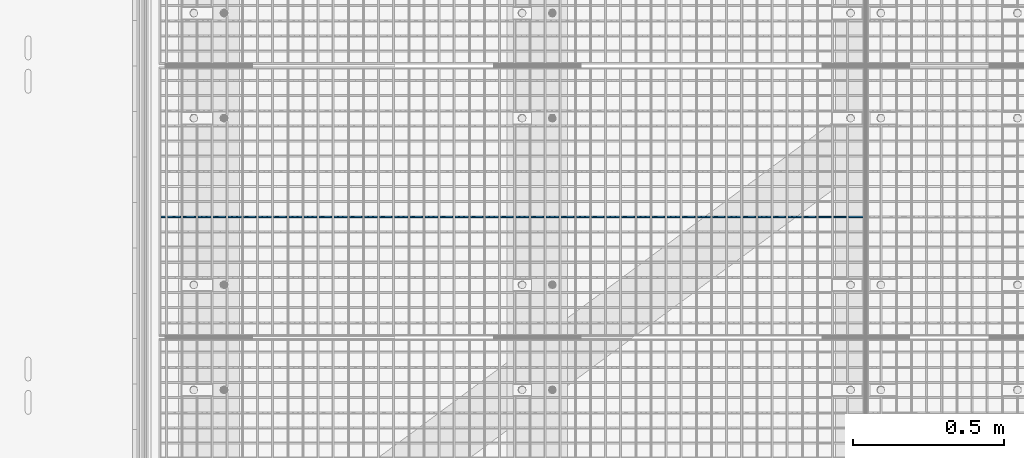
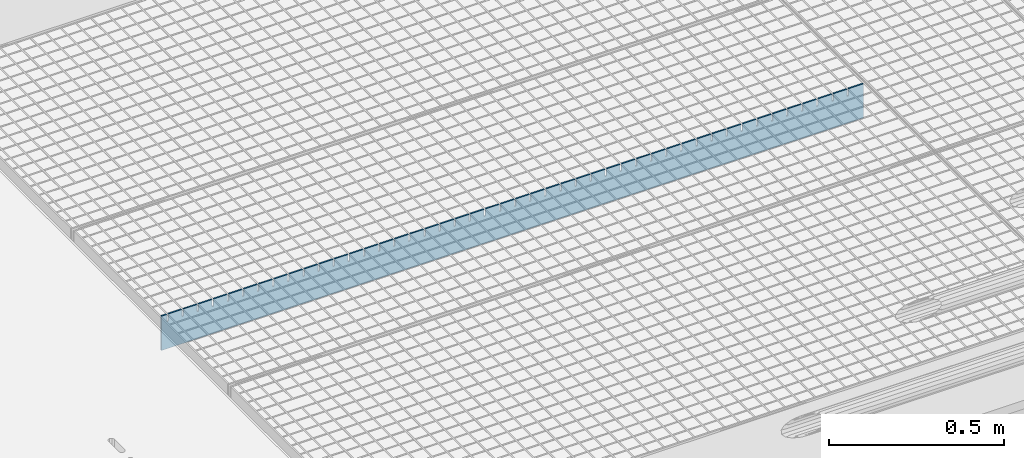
# One storey, part 126 of 1530: 1 beam.
"""IFC2X3 building model written with IfcOpenShell, lengths in millimetres."""

from ifc_helpers import new_model, si_unit, frame, origin_with_axes, place, context, subcontext, project, spatial, faceted_brep, material, type_object, element, save


model = new_model("IFC2X3")

# Units and contexts
model_context = context("Model", 3, precision=1e-05, world=origin_with_axes())
body_context = subcontext(model_context, "Body", "Model", "MODEL_VIEW")
ifc_project = project(units=[si_unit("LENGTHUNIT", "METRE", prefix="MILLI"), si_unit("AREAUNIT", "SQUARE_METRE"), si_unit("VOLUMEUNIT", "CUBIC_METRE"), si_unit("MASSUNIT", "GRAM", prefix="KILO"), si_unit("TIMEUNIT", "SECOND"), si_unit("PLANEANGLEUNIT", "RADIAN"), si_unit("SOLIDANGLEUNIT", "STERADIAN"), si_unit("THERMODYNAMICTEMPERATUREUNIT", "DEGREE_CELSIUS"), si_unit("LUMINOUSINTENSITYUNIT", "LUMEN")], contexts=[model_context])

# Site, building, storey
site_placement = place(None, origin_with_axes())
site = spatial("IfcSite", under=ifc_project, at=site_placement, Name="Brattvåg", CompositionType="ELEMENT")
building_placement = place(site_placement, origin_with_axes())
building = spatial("IfcBuilding", under=site, at=building_placement, Name="Undefined", CompositionType="ELEMENT")
storey_placement = place(building_placement, origin_with_axes())
storey = spatial("IfcBuildingStorey", under=building, at=storey_placement, Name="Undefined", CompositionType="ELEMENT", Elevation=0.0)

# Beam
ifc_material = material(Name="STEEL/S355J2")
beam_type = type_object("IfcBeamType", Name="120*5", PredefinedType="NOTDEFINED")
beam_placement = place(storey_placement, frame((2347.01317977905, 1449.9952545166, -59.9998626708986), z_axis=(0.0, 0.0, 1.0), x_axis=(-1.0, 1.99999855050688e-09, 0.0)))
element("IfcBeam", 1, at=beam_placement, inside=storey, type_object=beam_type, material=ifc_material, Name="GRATING", context=body_context, shape_type="Brep", body=[
    faceted_brep([(99.4490367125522, -2.50000000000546, 60.0000722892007), (99.4490367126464, -2.50000000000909, 35.0001373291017), (99.4490367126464, 2.50022888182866, 35.0001373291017), (99.4490367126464, 2.5, 60.0), (104.449036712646, -2.50000000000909, 35.0001373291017), (104.449036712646, 2.50022888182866, 35.0001373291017), (104.449036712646, -2.50000000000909, 60.0001373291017), (104.449036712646, 2.5, 60.0), (54.5084370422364, -2.50000000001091, 60.0001373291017), (54.5084370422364, 2.5, 60.0), (54.5084370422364, 2.49999999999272, 35.0001373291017), (54.5084370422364, -2.50000000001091, 35.0001373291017), (49.5084370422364, 2.49999999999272, 35.0001373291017), (49.5084370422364, -2.50000000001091, 35.0001373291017), (49.5084370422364, -2.5, 60.0), (49.5084370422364, 2.5, 60.0), (0.0, 2.5, 60.0), (0.0, -2.5, 60.0), (0.0, -2.5, -60.0), (0.0, 2.5, -60.0), (2319.99865722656, 2.5, -60.0), (2319.99865722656, -2.5, -60.0), (2319.99865722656, -2.5, 60.0), (2319.99865722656, 2.5, 60.0), (2302.24871932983, 2.5, 60.0), (2302.24871932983, -2.50000000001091, 60.0001373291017), (2302.24871932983, 2.49999999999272, 35.0001373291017), (2302.24871932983, -2.50000000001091, 35.0001373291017), (2297.24871932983, 2.49999999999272, 35.0001373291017), (2297.24871932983, -2.50000000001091, 35.0001373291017), (2297.24871932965, -2.50000000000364, 60.0000461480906), (2297.24871932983, 2.5, 60.0), (2252.29859649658, 2.5, 60.0), (2252.29859649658, -2.50000000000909, 60.0001373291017), (2252.29859649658, 2.50022888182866, 35.0001373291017), (2252.29859649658, -2.50000000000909, 35.0001373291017), (2247.29859649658, 2.50022888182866, 35.0001373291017), (2247.29859649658, -2.50000000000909, 35.0001373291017), (2247.29859649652, -2.50000000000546, 60.0000848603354), (2247.29859649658, 2.5, 60.0), (2202.34847366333, 2.5, 60.0), (2202.34847366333, -2.50000000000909, 60.0001373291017), (2202.34847366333, 2.50022888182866, 35.0001373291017), (2202.34847366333, -2.50000000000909, 35.0001373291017), (2197.34847366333, 2.50022888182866, 35.0001373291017), (2197.34847366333, -2.50000000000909, 35.0001373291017), (2197.34847366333, -2.5, 60.0), (2197.34847366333, 2.5, 60.0), (2152.39882766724, 2.5, 60.0), (2152.39882766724, -2.50000000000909, 60.0001373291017), (2152.39882766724, 2.50022888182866, 35.0001373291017), (2152.39882766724, -2.50000000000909, 35.0001373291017), (2147.39882766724, 2.50022888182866, 35.0001373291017), (2147.39882766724, -2.50000000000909, 35.0001373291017), (2147.39882766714, -2.50000000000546, 60.0000722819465), (2147.39882766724, 2.5, 60.0), (2102.44870483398, 2.5, 60.0), (2102.44870483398, -2.50000000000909, 60.0001373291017), (2102.44870483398, 2.50022888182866, 35.0001373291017), (2102.44870483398, -2.50000000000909, 35.0001373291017), (2097.44870483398, 2.50022888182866, 35.0001373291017), (2097.44870483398, -2.50000000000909, 35.0001373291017), (2097.44870483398, -2.5, 60.0), (2097.44870483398, 2.5, 60.0), (2052.49858200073, 2.5, 60.0), (2052.49858200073, -2.50000000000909, 60.0001373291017), (2052.49858200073, 2.50022888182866, 35.0001373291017), (2052.49858200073, -2.50000000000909, 35.0001373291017), (2047.49858200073, 2.50022888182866, 35.0001373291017), (2047.49858200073, -2.50000000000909, 35.0001373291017), (2047.49858200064, -2.50000000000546, 60.0000722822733), (2047.49858200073, 2.5, 60.0), (2002.54845916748, 2.5, 60.0), (2002.54845916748, -2.50000000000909, 60.0001373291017), (2002.54845916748, 2.50022888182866, 35.0001373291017), (2002.54845916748, -2.50000000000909, 35.0001373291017), (1997.54845916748, 2.50022888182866, 35.0001373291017), (1997.54845916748, -2.50000000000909, 35.0001373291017), (1997.54845916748, -2.5, 60.0), (1997.54845916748, 2.5, 60.0), (1952.59881317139, 2.5, 60.0), (1952.59881317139, -2.50000000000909, 60.0001373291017), (1952.59881317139, 2.50022888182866, 35.0001373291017), (1952.59881317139, -2.50000000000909, 35.0001373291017), (1947.59881317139, 2.50022888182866, 35.0001373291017), (1947.59881317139, -2.50000000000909, 35.0001373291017), (1947.59881317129, -2.50000000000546, 60.0000722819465), (1947.59881317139, 2.5, 60.0), (1902.64869033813, 2.5, 60.0), (1902.64869033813, -2.50000000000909, 60.0001373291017), (1902.64869033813, 2.50022888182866, 35.0001373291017), (1902.64869033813, -2.50000000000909, 35.0001373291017), (1897.64869033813, 2.50022888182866, 35.0001373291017), (1897.64869033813, -2.50000000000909, 35.0001373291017), (1897.64869033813, -2.5, 60.0), (1897.64869033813, 2.5, 60.0), (1852.69856750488, 2.5, 60.0), (1852.69856750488, -2.50000000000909, 60.0001373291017), (1852.69856750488, 2.50022888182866, 35.0001373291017), (1852.69856750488, -2.50000000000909, 35.0001373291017), (1847.69856750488, 2.50022888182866, 35.0001373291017), (1847.69856750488, -2.50000000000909, 35.0001373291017), (1847.69856750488, -2.5, 60.0), (1847.69856750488, 2.5, 60.0), (1802.74892150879, 2.5, 60.0), (1802.74892150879, -2.50000000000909, 60.0001373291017), (1802.74892150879, 2.50022888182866, 35.0001373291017), (1802.74892150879, -2.50000000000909, 35.0001373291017), (1797.74892150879, 2.50022888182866, 35.0001373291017), (1797.74892150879, -2.50000000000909, 35.0001373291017), (1797.74892150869, -2.50000000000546, 60.0000722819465), (1797.74892150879, 2.5, 60.0), (1752.79879867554, 2.5, 60.0), (1752.79879867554, -2.50000000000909, 60.0001373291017), (1752.79879867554, 2.50022888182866, 35.0001373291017), (1752.79879867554, -2.50000000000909, 35.0001373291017), (1747.79879867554, 2.50022888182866, 35.0001373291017), (1747.79879867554, -2.50000000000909, 35.0001373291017), (1747.79879867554, -2.5, 60.0), (1747.79879867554, 2.5, 60.0), (1702.84867584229, 2.5, 60.0), (1702.84867584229, -2.50000000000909, 60.0001373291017), (1702.84867584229, 2.50022888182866, 35.0001373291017), (1702.84867584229, -2.50000000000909, 35.0001373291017), (1697.84867584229, 2.50022888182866, 35.0001373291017), (1697.84867584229, -2.50000000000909, 35.0001373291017), (1697.84867584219, -2.50000000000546, 60.0000722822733), (1697.84867584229, 2.5, 60.0), (1652.89855300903, 2.5, 60.0), (1652.89855300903, -2.50000000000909, 60.0001373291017), (1652.89855300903, 2.50022888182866, 35.0001373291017), (1652.89855300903, -2.50000000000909, 35.0001373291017), (1647.89855300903, 2.50022888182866, 35.0001373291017), (1647.89855300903, -2.50000000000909, 35.0001373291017), (1647.89855300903, -2.5, 60.0), (1647.89855300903, 2.5, 60.0), (1602.94890701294, 2.5, 60.0), (1602.94890701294, -2.50000000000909, 60.0001373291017), (1602.94890701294, 2.50022888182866, 35.0001373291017), (1602.94890701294, -2.50000000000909, 35.0001373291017), (1597.94890701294, 2.50022888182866, 35.0001373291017), (1597.94890701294, -2.50000000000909, 35.0001373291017), (1597.94890701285, -2.50000000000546, 60.0000722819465), (1597.94890701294, 2.5, 60.0), (1552.99878417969, 2.5, 60.0), (1552.99878417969, -2.50000000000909, 60.0001373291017), (1552.99878417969, 2.50022888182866, 35.0001373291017), (1552.99878417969, -2.50000000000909, 35.0001373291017), (1547.99878417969, 2.50022888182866, 35.0001373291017), (1547.99878417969, -2.50000000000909, 35.0001373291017), (1547.99878417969, -2.5, 60.0), (1547.99878417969, 2.5, 60.0), (1503.04866134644, 2.5, 60.0), (1503.04866134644, -2.50000000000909, 60.0001373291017), (1503.04866134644, 2.50022888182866, 35.0001373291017), (1503.04866134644, -2.50000000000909, 35.0001373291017), (1498.04866134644, 2.50022888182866, 35.0001373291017), (1498.04866134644, -2.50000000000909, 35.0001373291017), (1498.04866134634, -2.50000000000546, 60.0000722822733), (1498.04866134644, 2.5, 60.0), (1453.09853851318, 2.5, 60.0), (1453.09853851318, -2.50000000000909, 60.0001373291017), (1453.09853851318, 2.50022888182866, 35.0001373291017), (1453.09853851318, -2.50000000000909, 35.0001373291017), (1448.09853851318, 2.50022888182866, 35.0001373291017), (1448.09853851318, -2.50000000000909, 35.0001373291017), (1448.09853851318, -2.5, 60.0), (1448.09853851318, 2.5, 60.0), (1403.14889251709, 2.5, 60.0), (1403.14889251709, -2.50000000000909, 60.0001373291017), (1403.14889251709, 2.50022888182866, 35.0001373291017), (1403.14889251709, -2.50000000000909, 35.0001373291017), (1398.14889251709, 2.50022888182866, 35.0001373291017), (1398.14889251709, -2.50000000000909, 35.0001373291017), (1398.148892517, -2.50000000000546, 60.0000722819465), (1398.14889251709, 2.5, 60.0), (1353.19876968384, 2.5, 60.0), (1353.19876968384, -2.50000000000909, 60.0001373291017), (1353.19876968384, 2.50022888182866, 35.0001373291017), (1353.19876968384, -2.50000000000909, 35.0001373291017), (1348.19876968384, 2.50022888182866, 35.0001373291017), (1348.19876968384, -2.50000000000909, 35.0001373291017), (1348.19876968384, -2.5, 60.0), (1348.19876968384, 2.5, 60.0), (1303.24864685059, 2.5, 60.0), (1303.24864685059, -2.50000000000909, 60.0001373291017), (1303.24864685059, 2.50022888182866, 35.0001373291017), (1303.24864685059, -2.50000000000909, 35.0001373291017), (1298.24864685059, 2.50022888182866, 35.0001373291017), (1298.24864685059, -2.50000000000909, 35.0001373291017), (1298.24864685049, -2.50000000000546, 60.0000722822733), (1298.24864685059, 2.5, 60.0), (1253.29852401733, 2.5, 60.0), (1253.29852401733, -2.50000000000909, 60.0001373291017), (1253.29852401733, 2.50022888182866, 35.0001373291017), (1253.29852401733, -2.50000000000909, 35.0001373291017), (1248.29852401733, 2.50022888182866, 35.0001373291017), (1248.29852401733, -2.50000000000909, 35.0001373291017), (1248.29852401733, -2.5, 60.0), (1248.29852401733, 2.5, 60.0), (1203.34887802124, 2.5, 60.0), (1203.34887802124, -2.50000000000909, 60.0001373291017), (1203.34887802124, 2.50022888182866, 35.0001373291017), (1203.34887802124, -2.50000000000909, 35.0001373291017), (1198.34887802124, 2.50022888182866, 35.0001373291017), (1198.34887802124, -2.50000000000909, 35.0001373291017), (1198.34887802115, -2.50000000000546, 60.0000722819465), (1198.34887802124, 2.5, 60.0), (1153.39875518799, 2.5, 60.0), (1153.39875518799, -2.50000000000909, 60.0001373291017), (1153.39875518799, 2.50022888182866, 35.0001373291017), (1153.39875518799, -2.50000000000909, 35.0001373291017), (1148.39875518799, 2.50022888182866, 35.0001373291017), (1148.39875518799, -2.50000000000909, 35.0001373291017), (1148.39875518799, -2.5, 60.0), (1148.39875518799, 2.5, 60.0), (1103.44863235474, 2.5, 60.0), (1103.44863235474, -2.50000000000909, 60.0001373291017), (1103.44863235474, 2.50022888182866, 35.0001373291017), (1103.44863235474, -2.50000000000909, 35.0001373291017), (1098.44863235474, 2.50022888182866, 35.0001373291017), (1098.44863235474, -2.50000000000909, 35.0001373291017), (1098.44863235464, -2.50000000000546, 60.0000722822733), (1098.44863235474, 2.5, 60.0), (1053.49850952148, 2.5, 60.0), (1053.49850952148, -2.50000000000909, 60.0001373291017), (1053.49850952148, 2.50022888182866, 35.0001373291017), (1053.49850952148, -2.50000000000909, 35.0001373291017), (1048.49850952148, 2.50022888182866, 35.0001373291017), (1048.49850952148, -2.50000000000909, 35.0001373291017), (1048.49850952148, -2.5, 60.0), (1048.49850952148, 2.5, 60.0), (1003.54886352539, 2.5, 60.0), (1003.54886352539, -2.50000000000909, 60.0001373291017), (1003.54886352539, 2.50022888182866, 35.0001373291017), (1003.54886352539, -2.50000000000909, 35.0001373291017), (998.548863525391, 2.50022888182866, 35.0001373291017), (998.548863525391, -2.50000000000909, 35.0001373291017), (998.548863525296, -2.50000000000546, 60.0000722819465), (998.548863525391, 2.5, 60.0), (953.598740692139, 2.5, 60.0), (953.598740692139, -2.50000000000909, 60.0001373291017), (953.598740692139, 2.50022888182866, 35.0001373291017), (953.598740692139, -2.50000000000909, 35.0001373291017), (948.598740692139, 2.50022888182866, 35.0001373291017), (948.598740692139, -2.50000000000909, 35.0001373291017), (948.598740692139, -2.5, 60.0), (948.598740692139, 2.5, 60.0), (903.648617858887, 2.5, 60.0), (903.648617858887, -2.50000000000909, 60.0001373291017), (903.648617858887, 2.50022888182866, 35.0001373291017), (903.648617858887, -2.50000000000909, 35.0001373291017), (898.648617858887, 2.50022888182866, 35.0001373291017), (898.648617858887, -2.50000000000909, 35.0001373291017), (898.648617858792, -2.50000000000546, 60.0000722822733), (898.648617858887, 2.5, 60.0), (853.698495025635, 2.5, 60.0), (853.698495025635, -2.50000000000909, 60.0001373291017), (853.698495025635, 2.50022888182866, 35.0001373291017), (853.698495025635, -2.50000000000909, 35.0001373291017), (848.698495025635, 2.50022888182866, 35.0001373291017), (848.698495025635, -2.50000000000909, 35.0001373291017), (848.698495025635, -2.5, 60.0), (848.698495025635, 2.5, 60.0), (803.748849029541, 2.5, 60.0), (803.748849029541, -2.50000000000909, 60.0001373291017), (803.748849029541, 2.50022888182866, 35.0001373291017), (803.748849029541, -2.50000000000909, 35.0001373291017), (798.748849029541, 2.50022888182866, 35.0001373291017), (798.748849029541, -2.50000000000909, 35.0001373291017), (798.748849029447, -2.50000000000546, 60.0000722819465), (798.748849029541, 2.5, 60.0), (753.798726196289, 2.5, 60.0), (753.798726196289, -2.50000000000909, 60.0001373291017), (753.798726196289, 2.50022888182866, 35.0001373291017), (753.798726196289, -2.50000000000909, 35.0001373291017), (748.798726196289, 2.50022888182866, 35.0001373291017), (748.798726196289, -2.50000000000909, 35.0001373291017), (748.798726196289, -2.5, 60.0), (748.798726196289, 2.5, 60.0), (703.848603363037, 2.5, 60.0), (703.848603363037, -2.50000000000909, 60.0001373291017), (703.848603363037, 2.50022888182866, 35.0001373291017), (703.848603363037, -2.50000000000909, 35.0001373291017), (698.848603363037, 2.50022888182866, 35.0001373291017), (698.848603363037, -2.50000000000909, 35.0001373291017), (698.848603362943, -2.50000000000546, 60.0000722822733), (698.848603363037, 2.5, 60.0), (653.898480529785, 2.5, 60.0), (653.898480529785, -2.50000000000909, 60.0001373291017), (653.898480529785, 2.50022888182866, 35.0001373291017), (653.898480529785, -2.50000000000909, 35.0001373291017), (648.898480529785, 2.50022888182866, 35.0001373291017), (648.898480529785, -2.50000000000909, 35.0001373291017), (648.898480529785, -2.5, 60.0), (648.898480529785, 2.5, 60.0), (603.948834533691, 2.5, 60.0), (603.948834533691, -2.50000000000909, 60.0001373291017), (603.948834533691, 2.50022888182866, 35.0001373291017), (603.948834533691, -2.50000000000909, 35.0001373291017), (598.948834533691, 2.50022888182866, 35.0001373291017), (598.948834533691, -2.50000000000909, 35.0001373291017), (598.948834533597, -2.50000000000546, 60.0000722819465), (598.948834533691, 2.5, 60.0), (553.998711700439, 2.5, 60.0), (553.998711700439, -2.50000000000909, 60.0001373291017), (553.998711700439, 2.50022888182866, 35.0001373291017), (553.998711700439, -2.50000000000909, 35.0001373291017), (548.998711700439, 2.50022888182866, 35.0001373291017), (548.998711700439, -2.50000000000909, 35.0001373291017), (548.998711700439, -2.5, 60.0), (548.998711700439, 2.5, 60.0), (504.048588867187, 2.5, 60.0), (504.048588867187, -2.50000000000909, 60.0001373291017), (504.048588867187, 2.50022888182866, 35.0001373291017), (504.048588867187, -2.50000000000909, 35.0001373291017), (499.048588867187, 2.50022888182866, 35.0001373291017), (499.048588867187, -2.50000000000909, 35.0001373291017), (499.048588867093, -2.50000000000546, 60.0000722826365), (499.048588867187, 2.5, 60.0), (454.098942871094, 2.5, 60.0), (454.098942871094, -2.50000000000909, 60.0001373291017), (454.098942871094, 2.50022888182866, 35.0001373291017), (454.098942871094, -2.50000000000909, 35.0001373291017), (449.098942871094, 2.50022888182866, 35.0001373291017), (449.098942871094, -2.50000000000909, 35.0001373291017), (449.098942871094, -2.5, 60.0), (449.098942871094, 2.5, 60.0), (404.148820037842, 2.5, 60.0), (404.148820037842, -2.50000000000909, 60.0001373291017), (404.148820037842, 2.50022888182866, 35.0001373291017), (404.148820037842, -2.50000000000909, 35.0001373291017), (399.148820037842, 2.50022888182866, 35.0001373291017), (399.148820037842, -2.50000000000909, 35.0001373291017), (399.148820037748, -2.50000000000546, 60.0000722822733), (399.148820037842, 2.5, 60.0), (354.19869720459, 2.5, 60.0), (354.19869720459, -2.50000000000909, 60.0001373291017), (354.19869720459, 2.50022888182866, 35.0001373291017), (354.19869720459, -2.50000000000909, 35.0001373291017), (349.19869720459, 2.50022888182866, 35.0001373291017), (349.19869720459, -2.50000000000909, 35.0001373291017), (349.19869720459, -2.5, 60.0), (349.19869720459, 2.5, 60.0), (304.248574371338, 2.5, 60.0), (304.248574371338, -2.50000000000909, 60.0001373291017), (304.248574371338, 2.50022888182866, 35.0001373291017), (304.248574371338, -2.50000000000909, 35.0001373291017), (299.248574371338, 2.50022888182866, 35.0001373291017), (299.248574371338, -2.50000000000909, 35.0001373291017), (299.248574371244, -2.50000000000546, 60.0000722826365), (299.248574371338, 2.5, 60.0), (254.298928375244, 2.5, 60.0), (254.298928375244, -2.50000000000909, 60.0001373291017), (254.298928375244, 2.50022888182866, 35.0001373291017), (254.298928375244, -2.50000000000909, 35.0001373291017), (249.298928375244, 2.50022888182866, 35.0001373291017), (249.298928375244, -2.50000000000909, 35.0001373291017), (249.298928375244, -2.5, 60.0), (249.298928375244, 2.5, 60.0), (204.348328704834, 2.5, 60.0), (204.348328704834, -2.50000000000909, 60.0001373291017), (204.348328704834, 2.50022888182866, 35.0001373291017), (204.348328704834, -2.50000000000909, 35.0001373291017), (199.348328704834, 2.50022888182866, 35.0001373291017), (199.348328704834, -2.50000000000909, 35.0001373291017), (199.34832870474, -2.50000000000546, 60.0000722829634), (199.348328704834, 2.5, 60.0), (154.39868270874, 2.5, 60.0), (154.39868270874, -2.50000000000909, 60.0001373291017), (154.39868270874, 2.50022888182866, 35.0001373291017), (154.39868270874, -2.50000000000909, 35.0001373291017), (149.39868270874, 2.50022888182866, 35.0001373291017), (149.39868270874, -2.50000000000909, 35.0001373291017), (149.39868270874, -2.5, 60.0), (149.39868270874, 2.5, 60.0)], [[[0, 1, 2, 3]], [[4, 5, 2, 1]], [[6, 7, 5, 4]], [[8, 9, 10, 11]], [[11, 10, 12, 13]], [[14, 13, 12, 15]], [[16, 17, 14, 15]], [[18, 17, 16, 19]], [[18, 19, 20, 21]], [[22, 21, 20, 23]], [[22, 23, 24, 25]], [[25, 24, 26, 27]], [[27, 26, 28, 29]], [[30, 29, 28, 31]], [[32, 33, 30, 31]], [[33, 32, 34, 35]], [[35, 34, 36, 37]], [[38, 37, 36, 39]], [[40, 41, 38, 39]], [[41, 40, 42, 43]], [[43, 42, 44, 45]], [[46, 45, 44, 47]], [[46, 47, 48, 49]], [[49, 48, 50, 51]], [[51, 50, 52, 53]], [[54, 53, 52, 55]], [[56, 57, 54, 55]], [[57, 56, 58, 59]], [[59, 58, 60, 61]], [[62, 61, 60, 63]], [[62, 63, 64, 65]], [[65, 64, 66, 67]], [[67, 66, 68, 69]], [[70, 69, 68, 71]], [[72, 73, 70, 71]], [[73, 72, 74, 75]], [[75, 74, 76, 77]], [[78, 77, 76, 79]], [[78, 79, 80, 81]], [[81, 80, 82, 83]], [[83, 82, 84, 85]], [[86, 85, 84, 87]], [[88, 89, 86, 87]], [[89, 88, 90, 91]], [[91, 90, 92, 93]], [[94, 93, 92, 95]], [[94, 95, 96, 97]], [[97, 96, 98, 99]], [[99, 98, 100, 101]], [[102, 101, 100, 103]], [[102, 103, 104, 105]], [[105, 104, 106, 107]], [[107, 106, 108, 109]], [[110, 109, 108, 111]], [[112, 113, 110, 111]], [[113, 112, 114, 115]], [[115, 114, 116, 117]], [[118, 117, 116, 119]], [[118, 119, 120, 121]], [[121, 120, 122, 123]], [[123, 122, 124, 125]], [[126, 125, 124, 127]], [[128, 129, 126, 127]], [[129, 128, 130, 131]], [[131, 130, 132, 133]], [[134, 133, 132, 135]], [[134, 135, 136, 137]], [[137, 136, 138, 139]], [[139, 138, 140, 141]], [[142, 141, 140, 143]], [[144, 145, 142, 143]], [[145, 144, 146, 147]], [[147, 146, 148, 149]], [[150, 149, 148, 151]], [[150, 151, 152, 153]], [[153, 152, 154, 155]], [[155, 154, 156, 157]], [[158, 157, 156, 159]], [[160, 161, 158, 159]], [[161, 160, 162, 163]], [[163, 162, 164, 165]], [[166, 165, 164, 167]], [[166, 167, 168, 169]], [[169, 168, 170, 171]], [[171, 170, 172, 173]], [[174, 173, 172, 175]], [[176, 177, 174, 175]], [[177, 176, 178, 179]], [[179, 178, 180, 181]], [[182, 181, 180, 183]], [[182, 183, 184, 185]], [[185, 184, 186, 187]], [[187, 186, 188, 189]], [[190, 189, 188, 191]], [[192, 193, 190, 191]], [[193, 192, 194, 195]], [[195, 194, 196, 197]], [[198, 197, 196, 199]], [[198, 199, 200, 201]], [[201, 200, 202, 203]], [[203, 202, 204, 205]], [[206, 205, 204, 207]], [[208, 209, 206, 207]], [[209, 208, 210, 211]], [[211, 210, 212, 213]], [[214, 213, 212, 215]], [[214, 215, 216, 217]], [[217, 216, 218, 219]], [[219, 218, 220, 221]], [[222, 221, 220, 223]], [[224, 225, 222, 223]], [[225, 224, 226, 227]], [[227, 226, 228, 229]], [[230, 229, 228, 231]], [[230, 231, 232, 233]], [[233, 232, 234, 235]], [[235, 234, 236, 237]], [[238, 237, 236, 239]], [[240, 241, 238, 239]], [[241, 240, 242, 243]], [[243, 242, 244, 245]], [[246, 245, 244, 247]], [[246, 247, 248, 249]], [[249, 248, 250, 251]], [[251, 250, 252, 253]], [[254, 253, 252, 255]], [[256, 257, 254, 255]], [[257, 256, 258, 259]], [[259, 258, 260, 261]], [[262, 261, 260, 263]], [[262, 263, 264, 265]], [[265, 264, 266, 267]], [[267, 266, 268, 269]], [[270, 269, 268, 271]], [[272, 273, 270, 271]], [[273, 272, 274, 275]], [[275, 274, 276, 277]], [[278, 277, 276, 279]], [[278, 279, 280, 281]], [[281, 280, 282, 283]], [[283, 282, 284, 285]], [[286, 285, 284, 287]], [[288, 289, 286, 287]], [[289, 288, 290, 291]], [[291, 290, 292, 293]], [[294, 293, 292, 295]], [[294, 295, 296, 297]], [[297, 296, 298, 299]], [[299, 298, 300, 301]], [[302, 301, 300, 303]], [[304, 305, 302, 303]], [[305, 304, 306, 307]], [[307, 306, 308, 309]], [[310, 309, 308, 311]], [[310, 311, 312, 313]], [[313, 312, 314, 315]], [[315, 314, 316, 317]], [[318, 317, 316, 319]], [[320, 321, 318, 319]], [[321, 320, 322, 323]], [[323, 322, 324, 325]], [[326, 325, 324, 327]], [[326, 327, 328, 329]], [[329, 328, 330, 331]], [[331, 330, 332, 333]], [[334, 333, 332, 335]], [[336, 337, 334, 335]], [[337, 336, 338, 339]], [[339, 338, 340, 341]], [[342, 341, 340, 343]], [[342, 343, 344, 345]], [[345, 344, 346, 347]], [[347, 346, 348, 349]], [[350, 349, 348, 351]], [[352, 353, 350, 351]], [[353, 352, 354, 355]], [[355, 354, 356, 357]], [[358, 357, 356, 359]], [[358, 359, 360, 361]], [[361, 360, 362, 363]], [[363, 362, 364, 365]], [[366, 365, 364, 367]], [[368, 369, 366, 367]], [[369, 368, 370, 371]], [[371, 370, 372, 373]], [[374, 373, 372, 375]], [[1, 0, 8, 11, 13, 14, 17, 18, 21, 22, 25, 27, 29, 30, 33, 35, 37, 38, 41, 43, 45, 46, 49, 51, 53, 54, 57, 59, 61, 62, 65, 67, 69, 70, 73, 75, 77, 78, 81, 83, 85, 86, 89, 91, 93, 94, 97, 99, 101, 102, 105, 107, 109, 110, 113, 115, 117, 118, 121, 123, 125, 126, 129, 131, 133, 134, 137, 139, 141, 142, 145, 147, 149, 150, 153, 155, 157, 158, 161, 163, 165, 166, 169, 171, 173, 174, 177, 179, 181, 182, 185, 187, 189, 190, 193, 195, 197, 198, 201, 203, 205, 206, 209, 211, 213, 214, 217, 219, 221, 222, 225, 227, 229, 230, 233, 235, 237, 238, 241, 243, 245, 246, 249, 251, 253, 254, 257, 259, 261, 262, 265, 267, 269, 270, 273, 275, 277, 278, 281, 283, 285, 286, 289, 291, 293, 294, 297, 299, 301, 302, 305, 307, 309, 310, 313, 315, 317, 318, 321, 323, 325, 326, 329, 331, 333, 334, 337, 339, 341, 342, 345, 347, 349, 350, 353, 355, 357, 358, 361, 363, 365, 366, 369, 371, 373, 374, 6, 4]], [[9, 8, 0, 3]], [[375, 372, 370, 368, 367, 364, 362, 360, 359, 356, 354, 352, 351, 348, 346, 344, 343, 340, 338, 336, 335, 332, 330, 328, 327, 324, 322, 320, 319, 316, 314, 312, 311, 308, 306, 304, 303, 300, 298, 296, 295, 292, 290, 288, 287, 284, 282, 280, 279, 276, 274, 272, 271, 268, 266, 264, 263, 260, 258, 256, 255, 252, 250, 248, 247, 244, 242, 240, 239, 236, 234, 232, 231, 228, 226, 224, 223, 220, 218, 216, 215, 212, 210, 208, 207, 204, 202, 200, 199, 196, 194, 192, 191, 188, 186, 184, 183, 180, 178, 176, 175, 172, 170, 168, 167, 164, 162, 160, 159, 156, 154, 152, 151, 148, 146, 144, 143, 140, 138, 136, 135, 132, 130, 128, 127, 124, 122, 120, 119, 116, 114, 112, 111, 108, 106, 104, 103, 100, 98, 96, 95, 92, 90, 88, 87, 84, 82, 80, 79, 76, 74, 72, 71, 68, 66, 64, 63, 60, 58, 56, 55, 52, 50, 48, 47, 44, 42, 40, 39, 36, 34, 32, 31, 28, 26, 24, 23, 20, 19, 16, 15, 12, 10, 9, 3, 2, 5, 7]], [[374, 375, 7, 6]]]),
])

save(model, "model.ifc")
